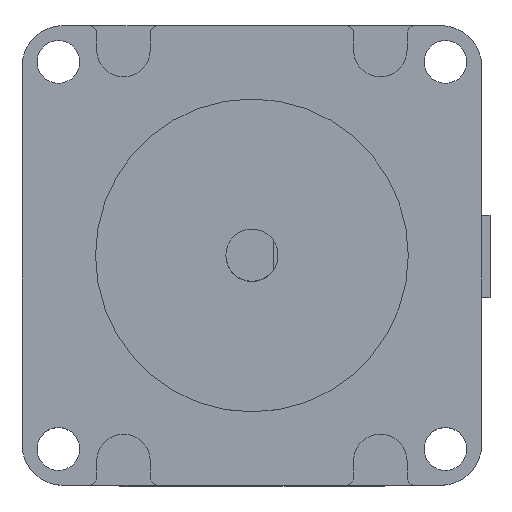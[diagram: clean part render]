
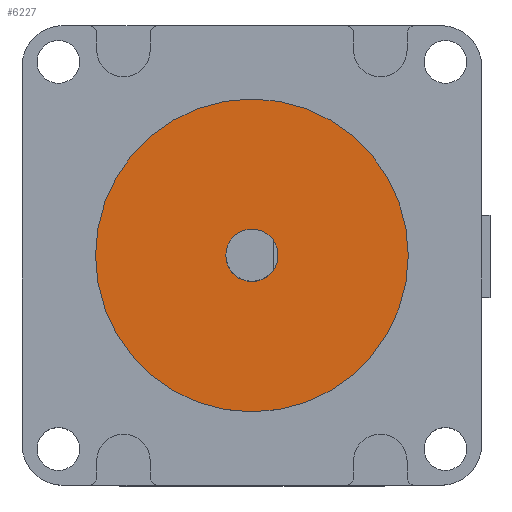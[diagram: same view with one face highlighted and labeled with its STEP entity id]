
A CAD part, top view. The second image highlights one B-rep face of the part: STEP entity #6227.
In plain terms, the highlighted planar face has unit normal (0, 0, 1).
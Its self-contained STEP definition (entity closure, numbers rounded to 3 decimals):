
#688=CARTESIAN_POINT('',(28.,28.,56.6));
#689=DIRECTION('',(0.,0.,1.));
#690=DIRECTION('',(1.,0.,0.));
#691=AXIS2_PLACEMENT_3D('',#688,#689,#690);
#693=CARTESIAN_POINT('',(28.,28.,56.6));
#694=DIRECTION('',(0.,0.,1.));
#695=DIRECTION('',(-1.,0.,0.));
#696=AXIS2_PLACEMENT_3D('',#693,#694,#695);
#698=CARTESIAN_POINT('',(28.,28.,56.6));
#699=DIRECTION('',(0.,0.,1.));
#700=DIRECTION('',(1.,0.,0.));
#701=AXIS2_PLACEMENT_3D('',#698,#699,#700);
#703=CARTESIAN_POINT('',(28.,28.,56.6));
#704=DIRECTION('',(0.,0.,1.));
#705=DIRECTION('',(-1.,0.,0.));
#706=AXIS2_PLACEMENT_3D('',#703,#704,#705);
#5188=CARTESIAN_POINT('',(47.05,28.,56.6));
#5189=CARTESIAN_POINT('',(8.95,28.,56.6));
#5190=VERTEX_POINT('',#5188);
#5191=VERTEX_POINT('',#5189);
#5228=CARTESIAN_POINT('',(31.175,28.,56.6));
#5229=CARTESIAN_POINT('',(24.825,28.,56.6));
#5230=VERTEX_POINT('',#5228);
#5231=VERTEX_POINT('',#5229);
#6212=CARTESIAN_POINT('',(0.,0.,56.6));
#6213=DIRECTION('',(0.,0.,1.));
#6214=DIRECTION('',(1.,0.,0.));
#6215=AXIS2_PLACEMENT_3D('',#6212,#6213,#6214);
#6216=PLANE('',#6215);
#6217=ORIENTED_EDGE('',*,*,#6192,.F.);
#6218=ORIENTED_EDGE('',*,*,#6206,.F.);
#6219=EDGE_LOOP('',(#6217,#6218));
#6220=FACE_OUTER_BOUND('',#6219,.F.);
#6222=ORIENTED_EDGE('',*,*,#6221,.T.);
#6224=ORIENTED_EDGE('',*,*,#6223,.T.);
#6225=EDGE_LOOP('',(#6222,#6224));
#6226=FACE_BOUND('',#6225,.F.);
#6227=ADVANCED_FACE('',(#6220,#6226),#6216,.T.);
#692=CIRCLE('',#691,19.05);
#697=CIRCLE('',#696,19.05);
#702=CIRCLE('',#701,3.175);
#707=CIRCLE('',#706,3.175);
#6192=EDGE_CURVE('',#5190,#5191,#692,.T.);
#6206=EDGE_CURVE('',#5191,#5190,#697,.T.);
#6221=EDGE_CURVE('',#5230,#5231,#702,.T.);
#6223=EDGE_CURVE('',#5231,#5230,#707,.T.);
